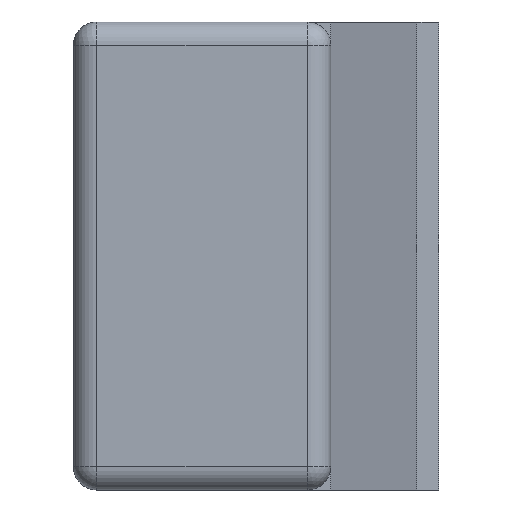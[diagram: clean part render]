
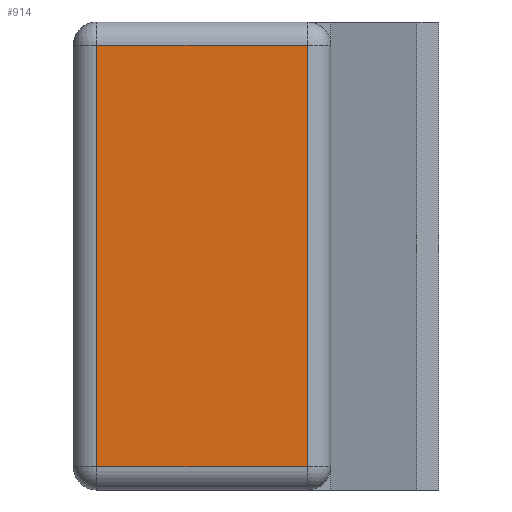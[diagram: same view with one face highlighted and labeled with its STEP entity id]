
A CAD part, left-side view. The second image highlights one B-rep face of the part: STEP entity #914.
In plain terms, the highlighted planar face has unit normal (-1, 0, 0).
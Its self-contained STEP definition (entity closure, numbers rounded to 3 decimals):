
#20=PLANE('',#1002);
#94=LINE('',#1444,#194);
#96=LINE('',#1454,#196);
#98=LINE('',#1457,#198);
#103=LINE('',#1471,#203);
#194=VECTOR('',#1164,10.);
#196=VECTOR('',#1176,10.);
#198=VECTOR('',#1180,10.);
#203=VECTOR('',#1195,10.);
#294=FACE_OUTER_BOUND('',#348,.T.);
#348=EDGE_LOOP('',(#747,#748,#749,#750));
#447=VERTEX_POINT('',#1426);
#449=VERTEX_POINT('',#1432);
#452=VERTEX_POINT('',#1439);
#455=VERTEX_POINT('',#1449);
#551=EDGE_CURVE('',#447,#452,#94,.T.);
#556=EDGE_CURVE('',#452,#455,#96,.T.);
#558=EDGE_CURVE('',#455,#449,#98,.T.);
#565=EDGE_CURVE('',#449,#447,#103,.T.);
#747=ORIENTED_EDGE('',*,*,#551,.F.);
#748=ORIENTED_EDGE('',*,*,#565,.F.);
#749=ORIENTED_EDGE('',*,*,#558,.F.);
#750=ORIENTED_EDGE('',*,*,#556,.F.);
#914=ADVANCED_FACE('',(#294),#20,.T.);
#1002=AXIS2_PLACEMENT_3D('',#1482,#1209,#1210);
#1164=DIRECTION('',(0.,0.,1.));
#1176=DIRECTION('',(0.,-1.,0.));
#1180=DIRECTION('',(0.,0.,-1.));
#1195=DIRECTION('',(0.,1.,0.));
#1209=DIRECTION('center_axis',(-1.,0.,0.));
#1210=DIRECTION('ref_axis',(0.,0.,1.));
#1426=CARTESIAN_POINT('',(-5.,5.,0.5));
#1432=CARTESIAN_POINT('',(-5.,0.5,0.5));
#1439=CARTESIAN_POINT('',(-5.,5.,9.5));
#1444=CARTESIAN_POINT('',(-5.,5.,10.25));
#1449=CARTESIAN_POINT('',(-5.,0.5,9.5));
#1454=CARTESIAN_POINT('',(-5.,4.75,9.5));
#1457=CARTESIAN_POINT('',(-5.,0.5,5.25));
#1471=CARTESIAN_POINT('',(-5.,4.75,0.5));
#1482=CARTESIAN_POINT('Origin',(-5.,5.5,10.5));
